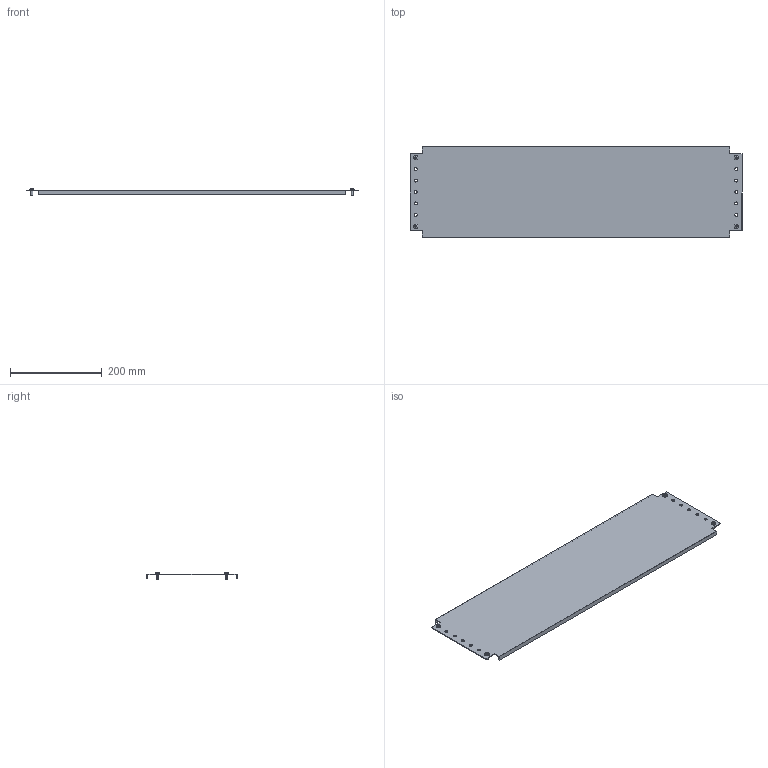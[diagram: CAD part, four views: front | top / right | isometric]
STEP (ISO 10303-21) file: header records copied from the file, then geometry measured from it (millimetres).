
FILE_DESCRIPTION (( 'STEP AP203' ), '1' );
FILE_NAME ('R6MPP02800.STEP', '2025-05-16T08:10:13', ( '' ), ( '' ), 'SwSTEP 2.0', 'SolidWorks 2022', '' );
FILE_SCHEMA (( 'CONFIG_CONTROL_DESIGN' ));
Length unit declared in the file: millimetre
Products named in the file (3): M5x12 DIN 7500 C Torx Zinc_stright; RB.3313.00.00.0 simple_-03; R6MPP02800
Assembly tree (5 placements, depth 2):
  R6MPP02800
    RB.3313.00.00.0 simple_-03
    M5x12 DIN 7500 C Torx Zinc_stright  x4
Bounding box: 725 x 198 x 15.56 mm (x, y, z)
Volume: 276123.8 mm3; surface area: 310536.5 mm2
Topology: 5 solids, 5 shells, 150 faces, 356 edges, 212 vertices
Faces by surface type: plane 58, cylinder 44, cone 16, torus 16, bspline 8, sphere 8
Entity records: 3055 total; most frequent: CARTESIAN_POINT 633, DIRECTION 446, ORIENTED_EDGE 408, EDGE_CURVE 204, AXIS2_PLACEMENT_3D 168, VERTEX_POINT 131, VECTOR 110, LINE 110
